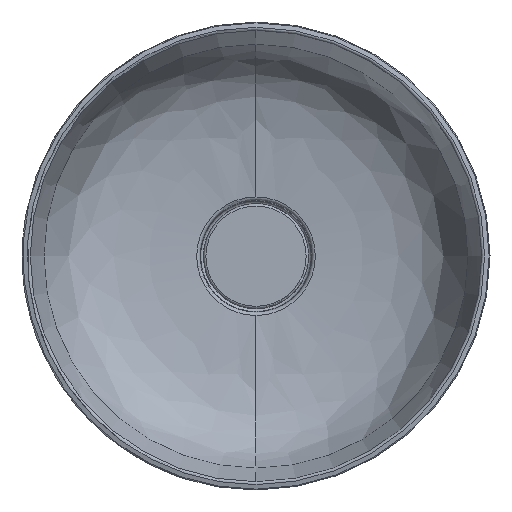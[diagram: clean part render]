
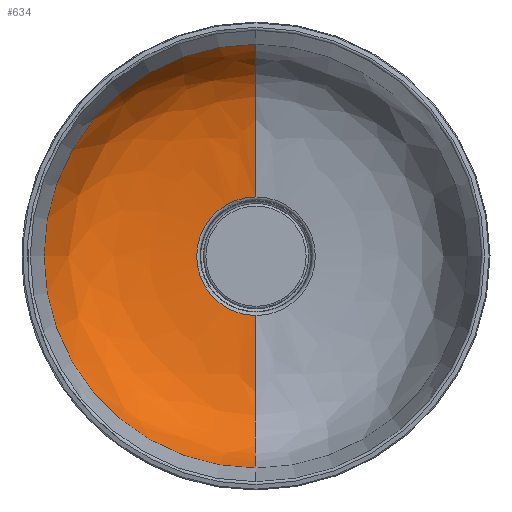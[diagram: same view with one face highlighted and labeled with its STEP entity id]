
A CAD part, top view. The second image highlights one B-rep face of the part: STEP entity #634.
In plain terms, the highlighted free-form (B-spline) face has degree [3, 3] with [4, 4] control points.
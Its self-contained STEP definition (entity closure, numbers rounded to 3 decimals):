
#24=B_SPLINE_CURVE_WITH_KNOTS('',3,(#1096,#1097,#1098,#1099),
 .UNSPECIFIED.,.F.,.F.,(4,4),(0.008,0.816),
 .UNSPECIFIED.);
#25=B_SPLINE_CURVE_WITH_KNOTS('',3,(#1102,#1103,#1104,#1105),
 .UNSPECIFIED.,.F.,.F.,(4,4),(0.008,0.816),
 .UNSPECIFIED.);
#31=(
BOUNDED_SURFACE()
B_SPLINE_SURFACE(3,3,((#1076,#1077,#1078,#1079),(#1080,#1081,#1082,#1083),
(#1084,#1085,#1086,#1087),(#1088,#1089,#1090,#1091)),.UNSPECIFIED.,.F.,
 .F.,.F.)
B_SPLINE_SURFACE_WITH_KNOTS((4,4),(4,4),(0.008,0.816),
(0.,1.),.UNSPECIFIED.)
GEOMETRIC_REPRESENTATION_ITEM()
RATIONAL_B_SPLINE_SURFACE(((1.,0.333,0.333,1.),
(1.,0.333,0.333,1.),(1.,0.333,0.333,
1.),(1.,0.333,0.333,1.)))
REPRESENTATION_ITEM('')
SURFACE()
);
#82=FACE_OUTER_BOUND('',#117,.T.);
#117=EDGE_LOOP('',(#432,#433,#434,#435));
#159=CIRCLE('',#694,50.692);
#160=CIRCLE('',#695,181.304);
#244=VERTEX_POINT('',#1092);
#245=VERTEX_POINT('',#1093);
#246=VERTEX_POINT('',#1095);
#247=VERTEX_POINT('',#1100);
#319=EDGE_CURVE('',#244,#245,#159,.T.);
#320=EDGE_CURVE('',#245,#246,#24,.T.);
#321=EDGE_CURVE('',#246,#247,#160,.T.);
#322=EDGE_CURVE('',#244,#247,#25,.T.);
#432=ORIENTED_EDGE('',*,*,#319,.T.);
#433=ORIENTED_EDGE('',*,*,#320,.T.);
#434=ORIENTED_EDGE('',*,*,#321,.T.);
#435=ORIENTED_EDGE('',*,*,#322,.F.);
#634=ADVANCED_FACE('',(#82),#31,.F.);
#694=AXIS2_PLACEMENT_3D('',#1094,#823,#824);
#695=AXIS2_PLACEMENT_3D('',#1101,#825,#826);
#823=DIRECTION('center_axis',(0.,-1.,0.));
#824=DIRECTION('ref_axis',(0.,0.,1.));
#825=DIRECTION('center_axis',(0.,1.,0.));
#826=DIRECTION('ref_axis',(0.,0.,-1.));
#1076=CARTESIAN_POINT('Ctrl Pts',(0.,0.144,50.692));
#1077=CARTESIAN_POINT('Ctrl Pts',(-101.384,0.144,50.692));
#1078=CARTESIAN_POINT('Ctrl Pts',(-101.384,0.144,-50.692));
#1079=CARTESIAN_POINT('Ctrl Pts',(0.,0.144,-50.692));
#1080=CARTESIAN_POINT('Ctrl Pts',(0.,5.183,143.449));
#1081=CARTESIAN_POINT('Ctrl Pts',(-286.898,5.183,143.449));
#1082=CARTESIAN_POINT('Ctrl Pts',(-286.898,5.183,-143.449));
#1083=CARTESIAN_POINT('Ctrl Pts',(0.,5.183,-143.449));
#1084=CARTESIAN_POINT('Ctrl Pts',(0.,15.879,163.943));
#1085=CARTESIAN_POINT('Ctrl Pts',(-327.887,15.879,163.943));
#1086=CARTESIAN_POINT('Ctrl Pts',(-327.887,15.879,-163.943));
#1087=CARTESIAN_POINT('Ctrl Pts',(0.,15.879,-163.943));
#1088=CARTESIAN_POINT('Ctrl Pts',(0.,68.,181.304));
#1089=CARTESIAN_POINT('Ctrl Pts',(-362.608,68.,181.304));
#1090=CARTESIAN_POINT('Ctrl Pts',(-362.608,68.,-181.304));
#1091=CARTESIAN_POINT('Ctrl Pts',(0.,68.,-181.304));
#1092=CARTESIAN_POINT('',(0.,0.144,50.692));
#1093=CARTESIAN_POINT('',(0.,0.144,-50.692));
#1094=CARTESIAN_POINT('Origin',(0.,0.144,
0.));
#1095=CARTESIAN_POINT('',(0.,68.,-181.304));
#1096=CARTESIAN_POINT('Ctrl Pts',(0.,0.144,-50.692));
#1097=CARTESIAN_POINT('Ctrl Pts',(0.,5.183,-143.449));
#1098=CARTESIAN_POINT('Ctrl Pts',(0.,15.879,-163.943));
#1099=CARTESIAN_POINT('Ctrl Pts',(0.,68.,-181.304));
#1100=CARTESIAN_POINT('',(0.,68.,181.304));
#1101=CARTESIAN_POINT('Origin',(0.,68.,0.));
#1102=CARTESIAN_POINT('Ctrl Pts',(0.,0.144,50.692));
#1103=CARTESIAN_POINT('Ctrl Pts',(0.,5.183,143.449));
#1104=CARTESIAN_POINT('Ctrl Pts',(0.,15.879,163.943));
#1105=CARTESIAN_POINT('Ctrl Pts',(0.,68.,181.304));
